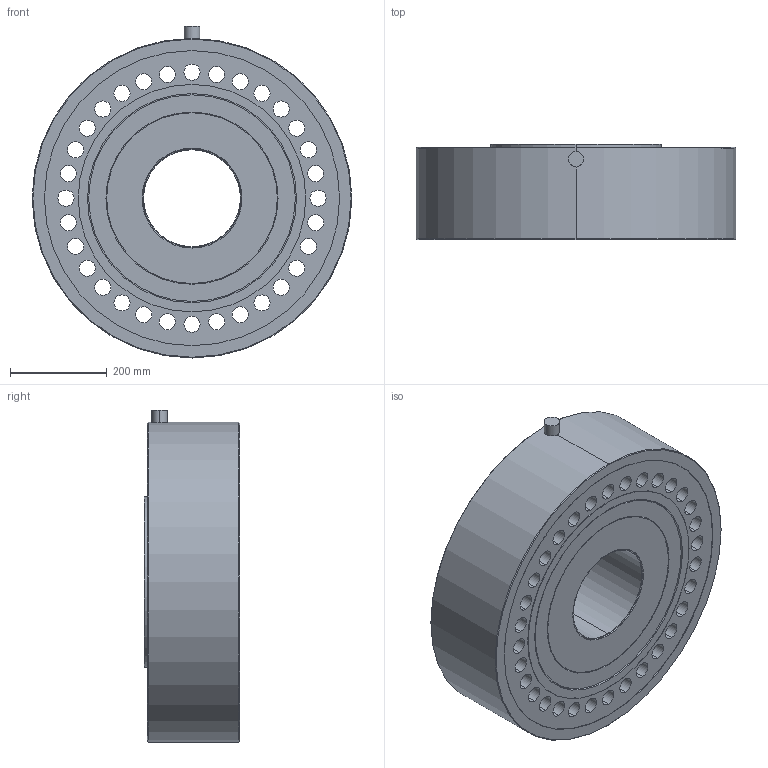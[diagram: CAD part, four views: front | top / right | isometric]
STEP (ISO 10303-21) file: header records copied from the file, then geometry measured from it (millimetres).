
FILE_DESCRIPTION (( 'STEP AP203' ), '1' );
FILE_NAME ('FINAL ASBY SS1568-1MLB.STEP', '2022-12-09T20:43:39', ( '' ), ( '' ), 'SwSTEP 2.0', 'SolidWorks 2008', '' );
FILE_SCHEMA (( 'CONFIG_CONTROL_DESIGN' ));
Length unit declared in the file: inch
Products named in the file (1): FINAL ASBY SS1568-1MLB
Bounding box: 660.4 x 196.85 x 685.8 mm (x, y, z)
Volume: 54083378.2 mm3; surface area: 1761152.8 mm2
Topology: 2 solids, 2 shells, 178 faces, 418 edges, 256 vertices
Faces by surface type: cylinder 90, torus 64, plane 16, cone 8
Entity records: 5427 total; most frequent: DIRECTION 1096, CARTESIAN_POINT 853, ORIENTED_EDGE 836, AXIS2_PLACEMENT_3D 499, EDGE_CURVE 418, CIRCLE 320, EDGE_LOOP 256, VERTEX_POINT 256
